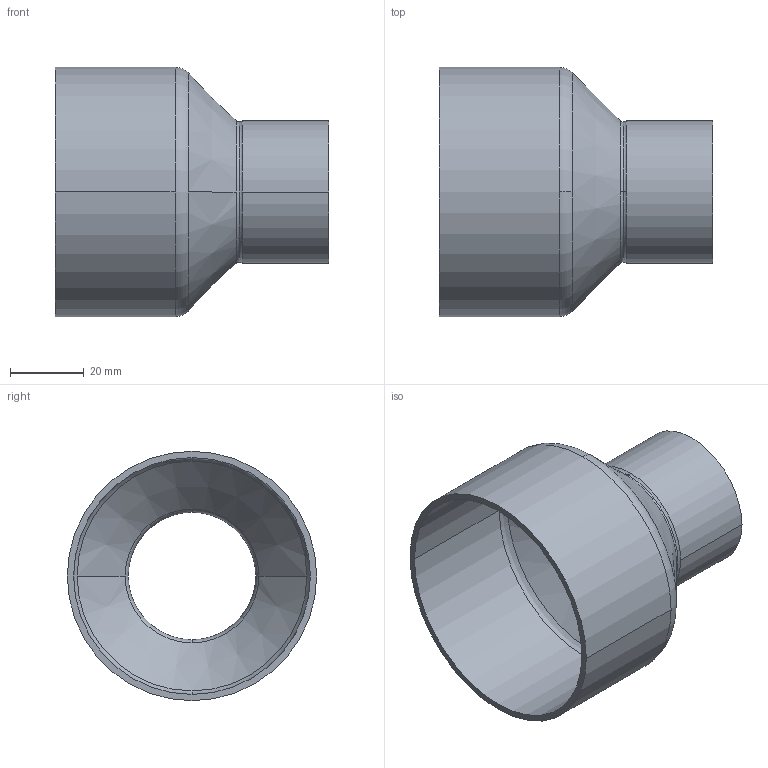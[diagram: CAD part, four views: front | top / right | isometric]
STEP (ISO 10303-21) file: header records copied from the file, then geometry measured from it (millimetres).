
FILE_DESCRIPTION((''),'2;1');
FILE_NAME('G:\Technics\CAD\Bauteile\Serie 15240\152406435.stp','2005-10-21T12:51:17',('boden'),(''),'Autodesk Inventor 8','Autodesk Inventor 8','');
FILE_SCHEMA(('AUTOMOTIVE_DESIGN { 1 0 10303 214 1 1 1 1 }'));
Length unit declared in the file: millimetre
Products named in the file (1): 152406435
Bounding box: 74.2 x 67.6 x 67.6 mm (x, y, z)
Volume: 22637.9 mm3; surface area: 27182.5 mm2
Topology: 1 solids, 1 shells, 26 faces, 68 edges, 44 vertices
Faces by surface type: cylinder 8, torus 6, bspline 6, cone 4, plane 2
Entity records: 1103 total; most frequent: CARTESIAN_POINT 403, DIRECTION 166, ORIENTED_EDGE 136, AXIS2_PLACEMENT_3D 77, EDGE_CURVE 68, CIRCLE 56, VERTEX_POINT 44, EDGE_LOOP 28
